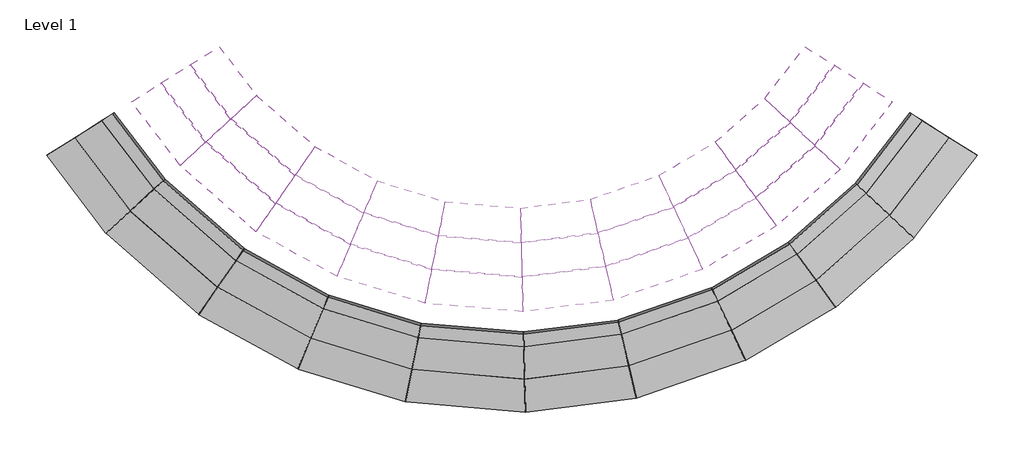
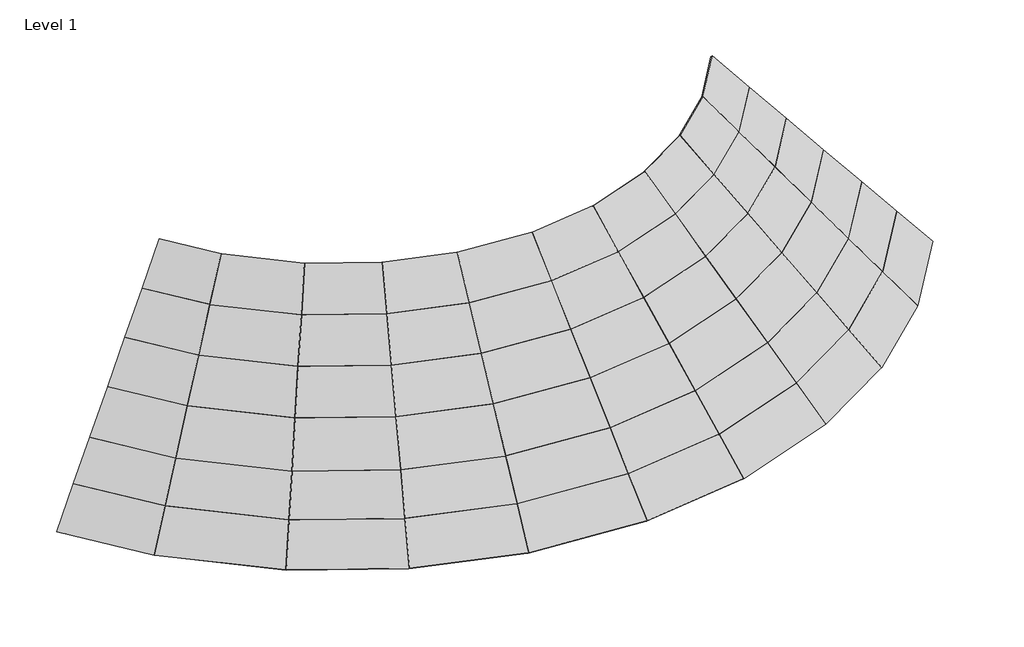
# One storey: 60 plates.
"""IFC4 building model written with IfcOpenShell, lengths in millimetres."""

from ifc_helpers import new_model, si_unit, origin, place, context, project, spatial, transform, mapped, element, save
from components import system_panel_glazed_6e2a4878, system_panel_glazed_3c71aec2, system_panel_glazed_4f0f1837, system_panel_glazed_e54a6020, system_panel_glazed_dfffa2bf, system_panel_glazed_6ec41bf2, system_panel_glazed_7a613e81, system_panel_glazed_fb5c626f, system_panel_glazed_0b7128df, system_panel_glazed_2b1205ff, system_panel_glazed_bf9ad2f0, system_panel_glazed_85c3ad32, system_panel_glazed_f3bbe18e, system_panel_glazed_807822bf, system_panel_glazed_51df4797, system_panel_glazed_4bbc0f11, system_panel_glazed_e08d9c6f, system_panel_glazed_d9e891e0, system_panel_glazed_01ebcfbc, system_panel_glazed_b30dfeb5, system_panel_glazed_c6224ab1, system_panel_glazed_5926891d, system_panel_glazed_dc56a07b, system_panel_glazed_5b0640af, system_panel_glazed_34d42b5f, system_panel_glazed_966eeb3d, system_panel_glazed_a2529070, system_panel_glazed_59c087d3, system_panel_glazed_0ad6e43e, system_panel_glazed_1d632c2c, system_panel_glazed_2f6e3617, system_panel_glazed_b698644e, system_panel_glazed_2e94e17d, system_panel_glazed_3fde837d, system_panel_glazed_3e9f0f07, system_panel_glazed_c5cbc8f5, system_panel_glazed_928b8942, system_panel_glazed_b72a6657, system_panel_glazed_78d38e67, system_panel_glazed_7d937b3a, system_panel_glazed_4a051760, system_panel_glazed_9d362672, system_panel_glazed_4bb69ba0, system_panel_glazed_829d08a9, system_panel_glazed_b9eb00bb, system_panel_glazed_2e27290a, system_panel_glazed_7a24bfd0, system_panel_glazed_4b19afda

model = new_model("IFC4")

# Units and contexts
model_context = context("Model", 3, world=origin())
ifc_project = project(units=[si_unit("LENGTHUNIT", "METRE", prefix="MILLI")], contexts=[model_context])

# Site, building, storey
site = spatial("IfcSite", under=ifc_project)
building = spatial("IfcBuilding", under=site)
storey = spatial("IfcBuildingStorey", under=building, Name="Level 1", Elevation=0.0)

# Plates
placement = place(None, origin())
system_panel_glazed_shape = system_panel_glazed_6e2a4878(model_context)
element("IfcPlate", 1, ObjectType="System Panel : Glazed", at=placement, inside=storey, context=model_context, shape_type="MappedRepresentation", body=[
    mapped(system_panel_glazed_shape, transform((-6833.4001878, -975.4926385, 497.7968484), x_axis=(0.6058835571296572, -0.795553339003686, 0.0), y_axis=(-0.563661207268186, -0.42927738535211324, 0.7056960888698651), z_axis=(-0.5614188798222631, -0.4275696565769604, -0.7085146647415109))),
])
system_panel_glazed_2_shape = system_panel_glazed_3c71aec2(model_context)
element("IfcPlate", 2, ObjectType="System Panel : Glazed", at=placement, inside=storey, context=model_context, shape_type="MappedRepresentation", body=[
    mapped(system_panel_glazed_2_shape, transform((-5762.8988394, -2094.4013435, 497.7968484), x_axis=(0.7529409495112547, -0.6580880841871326, 0.0), y_axis=(-0.4668094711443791, -0.53409258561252, 0.7048645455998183), z_axis=(-0.4638629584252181, -0.5307213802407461, -0.7093419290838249))),
])
system_panel_glazed_3_shape = system_panel_glazed_4f0f1837(model_context)
element("IfcPlate", 3, ObjectType="System Panel : Glazed", at=placement, inside=storey, context=model_context, shape_type="MappedRepresentation", body=[
    mapped(system_panel_glazed_3_shape, transform((-4413.5780029, -3048.1888963, 497.7971671), x_axis=(0.8761872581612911, -0.48197083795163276, 0.0), y_axis=(-0.34170840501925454, -0.6212005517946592, 0.7052270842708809), z_axis=(-0.3398988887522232, -0.617910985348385, -0.7089814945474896))),
])
system_panel_glazed_4_shape = system_panel_glazed_e54a6020(model_context)
element("IfcPlate", 4, ObjectType="System Panel : Glazed", at=placement, inside=storey, context=model_context, shape_type="MappedRepresentation", body=[
    mapped(system_panel_glazed_4_shape, transform((-2959.9949475, -3663.2313159, 497.7971671), x_axis=(0.9561248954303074, -0.2929593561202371, 0.0), y_axis=(-0.20769920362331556, -0.6778632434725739, 0.7052392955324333), z_axis=(-0.20660644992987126, -0.6742968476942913, -0.7089693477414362))),
])
system_panel_glazed_5_shape = system_panel_glazed_dfffa2bf(model_context)
element("IfcPlate", 5, ObjectType="System Panel : Glazed", at=placement, inside=storey, context=model_context, shape_type="MappedRepresentation", body=[
    mapped(system_panel_glazed_5_shape, transform((-1359.6020494, -3967.147594, 497.7971338), x_axis=(0.9963860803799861, -0.08493985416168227, 0.0), y_axis=(-0.06024218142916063, -0.7066702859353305, 0.7049737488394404), z_axis=(-0.05988036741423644, -0.7024260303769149, -0.7092333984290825))),
])
system_panel_glazed_6_shape = system_panel_glazed_6ec41bf2(model_context)
element("IfcPlate", 6, ObjectType="System Panel : Glazed", at=placement, inside=storey, context=model_context, shape_type="MappedRepresentation", body=[
    mapped(system_panel_glazed_6_shape, transform((261.7137196, -3940.2385872, 497.7971338), x_axis=(0.9920410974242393, 0.12591449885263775, 0.0), y_axis=(0.08926503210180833, -0.7032913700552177, 0.7052751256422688), z_axis=(0.08880436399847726, -0.6996619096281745, -0.7089337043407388))),
])
system_panel_glazed_7_shape = system_panel_glazed_7a613e81(model_context)
element("IfcPlate", 7, ObjectType="System Panel : Glazed", at=placement, inside=storey, context=model_context, shape_type="MappedRepresentation", body=[
    mapped(system_panel_glazed_7_shape, transform((1807.5219346, -3575.8633477, 497.7976981), x_axis=(0.9450234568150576, 0.32700254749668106, 0.0), y_axis=(0.23186627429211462, -0.6700836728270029, 0.7051424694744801), z_axis=(0.2305833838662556, -0.6663761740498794, -0.70906565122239))),
])
system_panel_glazed_8_shape = system_panel_glazed_fb5c626f(model_context)
element("IfcPlate", 8, ObjectType="System Panel : Glazed", at=placement, inside=storey, context=model_context, shape_type="MappedRepresentation", body=[
    mapped(system_panel_glazed_8_shape, transform((3207.4341932, -2936.7812915, 497.7976981), x_axis=(0.8610315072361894, 0.5085516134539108, 0.0), y_axis=(0.3604141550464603, -0.6102191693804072, 0.7055028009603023), z_axis=(0.358784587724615, -0.6074601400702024, -0.708707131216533))),
])
element("IfcPlate", 9, ObjectType="System Panel : Glazed", at=placement, inside=storey, context=model_context, shape_type="MappedRepresentation", body=[
    mapped(system_panel_glazed_8_shape, transform((4390.0958079, -2076.9627514, 497.7975143), x_axis=(0.7493209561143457, 0.662206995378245, 0.0), y_axis=(0.4693108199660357, -0.5310491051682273, 0.7055028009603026), z_axis=(0.4671888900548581, -0.5286480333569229, -0.7087071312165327))),
])
element("IfcPlate", 10, ObjectType="System Panel : Glazed", at=placement, inside=storey, context=model_context, shape_type="MappedRepresentation", body=[
    mapped(system_panel_glazed_8_shape, transform((5388.8143911, -1009.003113, 497.7970447), x_axis=(0.6105679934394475, 0.7919638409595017, 0.0), y_axis=(0.5612704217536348, -0.4327138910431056, 0.7055028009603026), z_axis=(0.558732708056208, -0.43075742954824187, -0.7087071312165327))),
])
system_panel_glazed_9_shape = system_panel_glazed_0b7128df(model_context)
element("IfcPlate", 11, ObjectType="System Panel : Glazed", at=placement, inside=storey, context=model_context, shape_type="MappedRepresentation", body=[
    mapped(system_panel_glazed_9_shape, transform((-6450.0028051, -683.5019371, 981.6471089), x_axis=(0.605883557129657, -0.7955533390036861, 0.0), y_axis=(-0.5636612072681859, -0.42927738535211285, 0.7056960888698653), z_axis=(-0.5614188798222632, -0.4275696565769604, -0.7085146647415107))),
])
system_panel_glazed_10_shape = system_panel_glazed_2b1205ff(model_context)
element("IfcPlate", 12, ObjectType="System Panel : Glazed", at=placement, inside=storey, context=model_context, shape_type="MappedRepresentation", body=[
    mapped(system_panel_glazed_10_shape, transform((-5446.4925922, -1732.3902122, 981.6471089), x_axis=(0.7529409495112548, -0.6580880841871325, 0.0), y_axis=(-0.4668094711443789, -0.5340925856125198, 0.7048645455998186), z_axis=(-0.4638629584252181, -0.5307213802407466, -0.7093419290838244))),
])
system_panel_glazed_11_shape = system_panel_glazed_bf9ad2f0(model_context)
element("IfcPlate", 13, ObjectType="System Panel : Glazed", at=placement, inside=storey, context=model_context, shape_type="MappedRepresentation", body=[
    mapped(system_panel_glazed_11_shape, transform((-4181.6112373, -2626.4904606, 981.6474077), x_axis=(0.8761872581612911, -0.48197083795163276, 0.0), y_axis=(-0.34170840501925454, -0.6212005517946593, 0.7052270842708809), z_axis=(-0.3398988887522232, -0.6179109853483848, -0.7089814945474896))),
])
system_panel_glazed_12_shape = system_panel_glazed_85c3ad32(model_context)
element("IfcPlate", 14, ObjectType="System Panel : Glazed", at=placement, inside=storey, context=model_context, shape_type="MappedRepresentation", body=[
    mapped(system_panel_glazed_12_shape, transform((-2818.9922403, -3203.0440203, 981.6474077), x_axis=(0.9561248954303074, -0.29295935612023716, 0.0), y_axis=(-0.20769920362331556, -0.6778632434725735, 0.7052392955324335), z_axis=(-0.20660644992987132, -0.6742968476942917, -0.7089693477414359))),
])
system_panel_glazed_13_shape = system_panel_glazed_f3bbe18e(model_context)
element("IfcPlate", 15, ObjectType="System Panel : Glazed", at=placement, inside=storey, context=model_context, shape_type="MappedRepresentation", body=[
    mapped(system_panel_glazed_13_shape, transform((-1318.7507402, -3487.9414433, 981.6473765), x_axis=(0.9963860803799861, -0.08493985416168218, 0.0), y_axis=(-0.060242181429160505, -0.7066702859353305, 0.7049737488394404), z_axis=(-0.05988036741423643, -0.7024260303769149, -0.7092333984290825))),
])
system_panel_glazed_14_shape = system_panel_glazed_807822bf(model_context)
element("IfcPlate", 16, ObjectType="System Panel : Glazed", at=placement, inside=storey, context=model_context, shape_type="MappedRepresentation", body=[
    mapped(system_panel_glazed_14_shape, transform((201.1043806, -3462.7163817, 981.6473765), x_axis=(0.9920410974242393, 0.1259144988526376, 0.0), y_axis=(0.08926503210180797, -0.7032913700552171, 0.7052751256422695), z_axis=(0.08880436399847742, -0.6996619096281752, -0.7089337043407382))),
])
system_panel_glazed_15_shape = system_panel_glazed_51df4797(model_context)
element("IfcPlate", 17, ObjectType="System Panel : Glazed", at=placement, inside=storey, context=model_context, shape_type="MappedRepresentation", body=[
    mapped(system_panel_glazed_15_shape, transform((1650.1770577, -3121.1434791, 981.6479054), x_axis=(0.9450234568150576, 0.327002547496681, 0.0), y_axis=(0.2318662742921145, -0.6700836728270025, 0.7051424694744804), z_axis=(0.23058338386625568, -0.6663761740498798, -0.7090656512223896))),
])
system_panel_glazed_16_shape = system_panel_glazed_4bbc0f11(model_context)
element("IfcPlate", 18, ObjectType="System Panel : Glazed", at=placement, inside=storey, context=model_context, shape_type="MappedRepresentation", body=[
    mapped(system_panel_glazed_16_shape, transform((2962.4839392, -2522.0546648, 981.6479054), x_axis=(0.8610315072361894, 0.5085516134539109, 0.0), y_axis=(0.3604141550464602, -0.610219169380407, 0.7055028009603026), z_axis=(0.3587845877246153, -0.6074601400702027, -0.7087071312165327))),
])
element("IfcPlate", 19, ObjectType="System Panel : Glazed", at=placement, inside=storey, context=model_context, shape_type="MappedRepresentation", body=[
    mapped(system_panel_glazed_16_shape, transform((4071.135514, -1716.0428934, 981.6477331), x_axis=(0.7493209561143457, 0.662206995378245, 0.0), y_axis=(0.4693108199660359, -0.5310491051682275, 0.7055028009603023), z_axis=(0.46718889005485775, -0.5286480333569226, -0.708707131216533))),
])
element("IfcPlate", 20, ObjectType="System Panel : Glazed", at=placement, inside=storey, context=model_context, shape_type="MappedRepresentation", body=[
    mapped(system_panel_glazed_16_shape, transform((5007.3550546, -714.9153442, 981.647293), x_axis=(0.6105679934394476, 0.7919638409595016, 0.0), y_axis=(0.5612704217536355, -0.43271389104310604, 0.7055028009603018), z_axis=(0.5587327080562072, -0.4307574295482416, -0.7087071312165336))),
])
system_panel_glazed_17_shape = system_panel_glazed_e08d9c6f(model_context)
element("IfcPlate", 21, ObjectType="System Panel : Glazed", at=placement, inside=storey, context=model_context, shape_type="MappedRepresentation", body=[
    mapped(system_panel_glazed_17_shape, transform((-6031.1475506, -364.5069701, 1510.2454527), x_axis=(0.6058835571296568, -0.7955533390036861, 0.0), y_axis=(-0.5636612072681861, -0.4292773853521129, 0.7056960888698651), z_axis=(-0.5614188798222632, -0.4275696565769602, -0.7085146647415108))),
])
system_panel_glazed_18_shape = system_panel_glazed_d9e891e0(model_context)
element("IfcPlate", 22, ObjectType="System Panel : Glazed", at=placement, inside=storey, context=model_context, shape_type="MappedRepresentation", body=[
    mapped(system_panel_glazed_18_shape, transform((-5100.8240427, -1336.8990726, 1510.2454623), x_axis=(0.7529409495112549, -0.6580880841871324, 0.0), y_axis=(-0.4668094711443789, -0.5340925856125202, 0.7048645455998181), z_axis=(-0.46386295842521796, -0.5307213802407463, -0.7093419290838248))),
])
system_panel_glazed_19_shape = system_panel_glazed_01ebcfbc(model_context)
element("IfcPlate", 23, ObjectType="System Panel : Glazed", at=placement, inside=storey, context=model_context, shape_type="MappedRepresentation", body=[
    mapped(system_panel_glazed_19_shape, transform((-3928.1913178, -2165.7918344, 1510.2458771), x_axis=(0.876187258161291, -0.48197083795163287, 0.0), y_axis=(-0.3417084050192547, -0.6212005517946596, 0.7052270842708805), z_axis=(-0.33989888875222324, -0.6179109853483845, -0.7089814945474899))),
])
system_panel_glazed_20_shape = system_panel_glazed_b30dfeb5(model_context)
element("IfcPlate", 24, ObjectType="System Panel : Glazed", at=placement, inside=storey, context=model_context, shape_type="MappedRepresentation", body=[
    mapped(system_panel_glazed_20_shape, transform((-2664.9491177, -2700.2969225, 1510.2458771), x_axis=(0.9561248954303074, -0.2929593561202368, 0.0), y_axis=(-0.20769920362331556, -0.6778632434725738, 0.7052392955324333), z_axis=(-0.2066064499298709, -0.6742968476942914, -0.708969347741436))),
])
system_panel_glazed_21_shape = system_panel_glazed_c6224ab1(model_context)
element("IfcPlate", 25, ObjectType="System Panel : Glazed", at=placement, inside=storey, context=model_context, shape_type="MappedRepresentation", body=[
    mapped(system_panel_glazed_21_shape, transform((-1274.1213252, -2964.4165701, 1510.2458467), x_axis=(0.9963860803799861, -0.08493985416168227, 0.0), y_axis=(-0.060242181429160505, -0.7066702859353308, 0.7049737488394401), z_axis=(-0.05988036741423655, -0.7024260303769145, -0.7092333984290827))),
])
system_panel_glazed_22_shape = system_panel_glazed_5926891d(model_context)
element("IfcPlate", 26, ObjectType="System Panel : Glazed", at=placement, inside=storey, context=model_context, shape_type="MappedRepresentation", body=[
    mapped(system_panel_glazed_22_shape, transform((134.8896537, -2941.0311906, 1510.2458467), x_axis=(0.9920410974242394, 0.1259144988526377, 0.0), y_axis=(0.08926503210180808, -0.7032913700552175, 0.705275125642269), z_axis=(0.08880436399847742, -0.6996619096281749, -0.7089337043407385))),
])
system_panel_glazed_23_shape = system_panel_glazed_dc56a07b(model_context)
element("IfcPlate", 27, ObjectType="System Panel : Glazed", at=placement, inside=storey, context=model_context, shape_type="MappedRepresentation", body=[
    mapped(system_panel_glazed_23_shape, transform((1478.2804032, -2624.369449, 1510.2463371), x_axis=(0.9450234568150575, 0.32700254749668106, 0.0), y_axis=(0.2318662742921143, -0.6700836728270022, 0.7051424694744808), z_axis=(0.23058338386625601, -0.66637617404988, -0.7090656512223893))),
])
system_panel_glazed_24_shape = system_panel_glazed_5b0640af(model_context)
element("IfcPlate", 28, ObjectType="System Panel : Glazed", at=placement, inside=storey, context=model_context, shape_type="MappedRepresentation", body=[
    mapped(system_panel_glazed_24_shape, transform((2694.8797874, -2068.9726186, 1510.2463371), x_axis=(0.8610315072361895, 0.5085516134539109, 0.0), y_axis=(0.3604141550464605, -0.6102191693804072, 0.7055028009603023), z_axis=(0.35878458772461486, -0.6074601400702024, -0.7087071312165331))),
])
element("IfcPlate", 29, ObjectType="System Panel : Glazed", at=placement, inside=storey, context=model_context, shape_type="MappedRepresentation", body=[
    mapped(system_panel_glazed_24_shape, transform((3722.6765945, -1321.7438734, 1510.2461774), x_axis=(0.7493209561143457, 0.662206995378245, 0.0), y_axis=(0.4693108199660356, -0.5310491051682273, 0.7055028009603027), z_axis=(0.46718889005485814, -0.5286480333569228, -0.7087071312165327))),
])
element("IfcPlate", 30, ObjectType="System Panel : Glazed", at=placement, inside=storey, context=model_context, shape_type="MappedRepresentation", body=[
    mapped(system_panel_glazed_24_shape, transform((4590.6169612, -393.6292864, 1510.2457693), x_axis=(0.6105679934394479, 0.7919638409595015, 0.0), y_axis=(0.5612704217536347, -0.4327138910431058, 0.7055028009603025), z_axis=(0.5587327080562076, -0.4307574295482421, -0.7087071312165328))),
])
system_panel_glazed_25_shape = system_panel_glazed_34d42b5f(model_context)
element("IfcPlate", 31, ObjectType="System Panel : Glazed", at=placement, inside=storey, context=model_context, shape_type="MappedRepresentation", body=[
    mapped(system_panel_glazed_25_shape, transform((-5624.9806403, -55.1753392, 2022.8309842), x_axis=(0.6058835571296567, -0.7955533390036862, 0.0), y_axis=(-0.5636612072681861, -0.4292773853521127, 0.7056960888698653), z_axis=(-0.5614188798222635, -0.4275696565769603, -0.7085146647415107))),
])
system_panel_glazed_26_shape = system_panel_glazed_966eeb3d(model_context)
element("IfcPlate", 32, ObjectType="System Panel : Glazed", at=placement, inside=storey, context=model_context, shape_type="MappedRepresentation", body=[
    mapped(system_panel_glazed_26_shape, transform((-4765.6234245, -953.384573, 2022.8362519), x_axis=(0.7529409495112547, -0.6580880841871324, 0.0), y_axis=(-0.46680947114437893, -0.53409258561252, 0.7048645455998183), z_axis=(-0.463862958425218, -0.5307213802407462, -0.7093419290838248))),
])
system_panel_glazed_27_shape = system_panel_glazed_a2529070(model_context)
element("IfcPlate", 33, ObjectType="System Panel : Glazed", at=placement, inside=storey, context=model_context, shape_type="MappedRepresentation", body=[
    mapped(system_panel_glazed_27_shape, transform((-3682.4459763, -1719.0450214, 2022.8362519), x_axis=(0.8761872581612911, -0.4819708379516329, 0.0), y_axis=(-0.3417084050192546, -0.6212005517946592, 0.705227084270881), z_axis=(-0.33989888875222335, -0.617910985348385, -0.7089814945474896))),
])
system_panel_glazed_28_shape = system_panel_glazed_59c087d3(model_context)
element("IfcPlate", 34, ObjectType="System Panel : Glazed", at=placement, inside=storey, context=model_context, shape_type="MappedRepresentation", body=[
    mapped(system_panel_glazed_28_shape, transform((-2515.5716567, -2212.7770397, 2022.8341447), x_axis=(0.9561248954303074, -0.29295935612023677, 0.0), y_axis=(-0.20769920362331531, -0.6778632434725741, 0.705239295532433), z_axis=(-0.2066064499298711, -0.6742968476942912, -0.7089693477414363))),
])
system_panel_glazed_29_shape = system_panel_glazed_0ad6e43e(model_context)
element("IfcPlate", 35, ObjectType="System Panel : Glazed", at=placement, inside=storey, context=model_context, shape_type="MappedRepresentation", body=[
    mapped(system_panel_glazed_29_shape, transform((-1230.8434955, -2456.7464571, 2022.8359047), x_axis=(0.9963860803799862, -0.08493985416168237, 0.0), y_axis=(-0.060242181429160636, -0.7066702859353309, 0.70497374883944), z_axis=(-0.05988036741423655, -0.7024260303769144, -0.709233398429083))),
])
system_panel_glazed_30_shape = system_panel_glazed_1d632c2c(model_context)
element("IfcPlate", 36, ObjectType="System Panel : Glazed", at=placement, inside=storey, context=model_context, shape_type="MappedRepresentation", body=[
    mapped(system_panel_glazed_30_shape, transform((70.6794784, -2435.1392371, 2022.8417903), x_axis=(0.9920410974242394, 0.1259144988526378, 0.0), y_axis=(0.08926503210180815, -0.7032913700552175, 0.705275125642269), z_axis=(0.08880436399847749, -0.6996619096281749, -0.7089337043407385))),
])
system_panel_glazed_31_shape = system_panel_glazed_2f6e3617(model_context)
element("IfcPlate", 37, ObjectType="System Panel : Glazed", at=placement, inside=storey, context=model_context, shape_type="MappedRepresentation", body=[
    mapped(system_panel_glazed_31_shape, transform((1311.58781, -2142.6349339, 2022.8417903), x_axis=(0.9450234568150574, 0.32700254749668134, 0.0), y_axis=(0.2318662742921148, -0.6700836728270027, 0.7051424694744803), z_axis=(0.23058338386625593, -0.6663761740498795, -0.7090656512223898))),
])
system_panel_glazed_32_shape = system_panel_glazed_b698644e(model_context)
element("IfcPlate", 38, ObjectType="System Panel : Glazed", at=placement, inside=storey, context=model_context, shape_type="MappedRepresentation", body=[
    mapped(system_panel_glazed_32_shape, transform((2435.3823416, -1629.6160805, 2022.8315939), x_axis=(0.8610315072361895, 0.5085516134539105, 0.0), y_axis=(0.36041415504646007, -0.6102191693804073, 0.7055028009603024), z_axis=(0.3587845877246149, -0.6074601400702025, -0.708707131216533))),
])
element("IfcPlate", 39, ObjectType="System Panel : Glazed", at=placement, inside=storey, context=model_context, shape_type="MappedRepresentation", body=[
    mapped(system_panel_glazed_32_shape, transform((3384.7740628, -939.3899442, 2022.8309973), x_axis=(0.7493209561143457, 0.662206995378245, 0.0), y_axis=(0.4693108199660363, -0.5310491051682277, 0.705502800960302), z_axis=(0.4671888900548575, -0.5286480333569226, -0.7087071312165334))),
])
element("IfcPlate", 40, ObjectType="System Panel : Glazed", at=placement, inside=storey, context=model_context, shape_type="MappedRepresentation", body=[
    mapped(system_panel_glazed_32_shape, transform((4186.5037588, -82.0764437, 2022.8305952), x_axis=(0.6105679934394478, 0.7919638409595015, 0.0), y_axis=(0.561270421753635, -0.43271389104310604, 0.7055028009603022), z_axis=(0.5587327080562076, -0.4307574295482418, -0.7087071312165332))),
])
system_panel_glazed_33_shape = system_panel_glazed_2e94e17d(model_context)
element("IfcPlate", 41, ObjectType="System Panel : Glazed", at=placement, inside=storey, context=model_context, shape_type="MappedRepresentation", body=[
    mapped(system_panel_glazed_33_shape, transform((-4812.6485281, 563.4868007, 3048.0), x_axis=(0.6058835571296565, -0.7955533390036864, 0.0), y_axis=(-0.5636612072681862, -0.4292773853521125, 0.7056960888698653), z_axis=(-0.5614188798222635, -0.42756965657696, -0.7085146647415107))),
])
system_panel_glazed_34_shape = system_panel_glazed_3fde837d(model_context)
element("IfcPlate", 42, ObjectType="System Panel : Glazed", at=placement, inside=storey, context=model_context, shape_type="MappedRepresentation", body=[
    mapped(system_panel_glazed_34_shape, transform((-4095.2339443, -186.3688312, 3048.0), x_axis=(0.752940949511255, -0.658088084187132, 0.0), y_axis=(-0.4668094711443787, -0.5340925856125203, 0.7048645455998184), z_axis=(-0.4638629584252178, -0.5307213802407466, -0.7093419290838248))),
])
system_panel_glazed_35_shape = system_panel_glazed_3e9f0f07(model_context)
element("IfcPlate", 43, ObjectType="System Panel : Glazed", at=placement, inside=storey, context=model_context, shape_type="MappedRepresentation", body=[
    mapped(system_panel_glazed_35_shape, transform((-3190.9633404, -825.56627, 3048.0), x_axis=(0.8761872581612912, -0.4819708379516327, 0.0), y_axis=(-0.3417084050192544, -0.6212005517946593, 0.7052270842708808), z_axis=(-0.3398988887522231, -0.6179109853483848, -0.7089814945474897))),
])
system_panel_glazed_36_shape = system_panel_glazed_c5cbc8f5(model_context)
element("IfcPlate", 44, ObjectType="System Panel : Glazed", at=placement, inside=storey, context=model_context, shape_type="MappedRepresentation", body=[
    mapped(system_panel_glazed_36_shape, transform((-2216.8196919, -1237.7474791, 3048.0), x_axis=(0.9561248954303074, -0.2929593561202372, 0.0), y_axis=(-0.20769920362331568, -0.6778632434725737, 0.7052392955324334), z_axis=(-0.20660644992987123, -0.6742968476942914, -0.7089693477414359))),
])
system_panel_glazed_37_shape = system_panel_glazed_928b8942(model_context)
element("IfcPlate", 45, ObjectType="System Panel : Glazed", at=placement, inside=storey, context=model_context, shape_type="MappedRepresentation", body=[
    mapped(system_panel_glazed_37_shape, transform((-1144.2894509, -1441.4220756, 3048.0), x_axis=(0.9963860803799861, -0.0849398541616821, 0.0), y_axis=(-0.06024218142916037, -0.7066702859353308, 0.7049737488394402), z_axis=(-0.05988036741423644, -0.7024260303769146, -0.7092333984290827))),
])
system_panel_glazed_38_shape = system_panel_glazed_b72a6657(model_context)
element("IfcPlate", 46, ObjectType="System Panel : Glazed", at=placement, inside=storey, context=model_context, shape_type="MappedRepresentation", body=[
    mapped(system_panel_glazed_38_shape, transform((-57.7369354, -1423.3886026, 3048.0), x_axis=(0.9920410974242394, 0.12591449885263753, 0.0), y_axis=(0.089265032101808, -0.7032913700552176, 0.7052751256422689), z_axis=(0.08880436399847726, -0.6996619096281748, -0.7089337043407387))),
])
system_panel_glazed_39_shape = system_panel_glazed_78d38e67(model_context)
element("IfcPlate", 47, ObjectType="System Panel : Glazed", at=placement, inside=storey, context=model_context, shape_type="MappedRepresentation", body=[
    mapped(system_panel_glazed_39_shape, transform((978.2137513, -1179.1964608, 3048.0), x_axis=(0.9450234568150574, 0.3270025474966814, 0.0), y_axis=(0.23186627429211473, -0.6700836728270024, 0.7051424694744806), z_axis=(0.23058338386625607, -0.6663761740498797, -0.7090656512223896))),
])
system_panel_glazed_40_shape = system_panel_glazed_7d937b3a(model_context)
element("IfcPlate", 48, ObjectType="System Panel : Glazed", at=placement, inside=storey, context=model_context, shape_type="MappedRepresentation", body=[
    mapped(system_panel_glazed_40_shape, transform((1916.3885337, -750.9048008, 3048.0), x_axis=(0.8610315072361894, 0.5085516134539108, 0.0), y_axis=(0.36041415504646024, -0.6102191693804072, 0.7055028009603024), z_axis=(0.3587845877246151, -0.6074601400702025, -0.708707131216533))),
])
element("IfcPlate", 49, ObjectType="System Panel : Glazed", at=placement, inside=storey, context=model_context, shape_type="MappedRepresentation", body=[
    mapped(system_panel_glazed_40_shape, transform((2708.9694203, -174.6825603, 3048.0), x_axis=(0.7493209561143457, 0.6622069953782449, 0.0), y_axis=(0.46931081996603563, -0.5310491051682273, 0.7055028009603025), z_axis=(0.46718889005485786, -0.5286480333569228, -0.7087071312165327))),
])
element("IfcPlate", 50, ObjectType="System Panel : Glazed", at=placement, inside=storey, context=model_context, shape_type="MappedRepresentation", body=[
    mapped(system_panel_glazed_40_shape, transform((3378.2775487, 541.0290916, 3048.0), x_axis=(0.610567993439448, 0.7919638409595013, 0.0), y_axis=(0.561270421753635, -0.4327138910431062, 0.7055028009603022), z_axis=(0.5587327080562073, -0.4307574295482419, -0.7087071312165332))),
])
system_panel_glazed_41_shape = system_panel_glazed_4a051760(model_context)
element("IfcPlate", 51, ObjectType="System Panel : Glazed", at=placement, inside=storey, context=model_context, shape_type="MappedRepresentation", body=[
    mapped(system_panel_glazed_41_shape, transform((-5218.8143786, 254.1559291, 2535.4157769), x_axis=(0.6058835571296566, -0.7955533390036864, 0.0), y_axis=(-0.5636612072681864, -0.4292773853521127, 0.7056960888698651), z_axis=(-0.5614188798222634, -0.42756965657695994, -0.7085146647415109))),
])
system_panel_glazed_42_shape = system_panel_glazed_9d362672(model_context)
element("IfcPlate", 52, ObjectType="System Panel : Glazed", at=placement, inside=storey, context=model_context, shape_type="MappedRepresentation", body=[
    mapped(system_panel_glazed_42_shape, transform((-4430.4271646, -569.8747527, 2535.4206096), x_axis=(0.7529409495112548, -0.6580880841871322, 0.0), y_axis=(-0.4668094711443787, -0.5340925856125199, 0.7048645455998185), z_axis=(-0.463862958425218, -0.5307213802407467, -0.7093419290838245))),
])
system_panel_glazed_43_shape = system_panel_glazed_4bb69ba0(model_context)
element("IfcPlate", 53, ObjectType="System Panel : Glazed", at=placement, inside=storey, context=model_context, shape_type="MappedRepresentation", body=[
    mapped(system_panel_glazed_43_shape, transform((-3436.7034069, -1272.3035144, 2535.4206096), x_axis=(0.8761872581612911, -0.48197083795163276, 0.0), y_axis=(-0.3417084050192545, -0.621200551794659, 0.7052270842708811), z_axis=(-0.33989888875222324, -0.6179109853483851, -0.7089814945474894))),
])
system_panel_glazed_44_shape = system_panel_glazed_829d08a9(model_context)
element("IfcPlate", 54, ObjectType="System Panel : Glazed", at=placement, inside=storey, context=model_context, shape_type="MappedRepresentation", body=[
    mapped(system_panel_glazed_44_shape, transform((-2366.1951154, -1725.2607618, 2535.4186764), x_axis=(0.9561248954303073, -0.29295935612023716, 0.0), y_axis=(-0.20769920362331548, -0.6778632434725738, 0.7052392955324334), z_axis=(-0.20660644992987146, -0.6742968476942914, -0.708969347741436))),
])
system_panel_glazed_45_shape = system_panel_glazed_b9eb00bb(model_context)
element("IfcPlate", 55, ObjectType="System Panel : Glazed", at=placement, inside=storey, context=model_context, shape_type="MappedRepresentation", body=[
    mapped(system_panel_glazed_45_shape, transform((-1187.5664303, -1949.0819369, 2535.4202911), x_axis=(0.9963860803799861, -0.08493985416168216, 0.0), y_axis=(-0.0602421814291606, -0.7066702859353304, 0.7049737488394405), z_axis=(-0.05988036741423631, -0.702426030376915, -0.7092333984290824))),
])
system_panel_glazed_46_shape = system_panel_glazed_2e27290a(model_context)
element("IfcPlate", 56, ObjectType="System Panel : Glazed", at=placement, inside=storey, context=model_context, shape_type="MappedRepresentation", body=[
    mapped(system_panel_glazed_46_shape, transform((6.4705044, -1929.2592082, 2535.4256906), x_axis=(0.9920410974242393, 0.12591449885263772, 0.0), y_axis=(0.08926503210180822, -0.7032913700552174, 0.7052751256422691), z_axis=(0.08880436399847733, -0.6996619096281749, -0.7089337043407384))),
])
system_panel_glazed_47_shape = system_panel_glazed_7a24bfd0(model_context)
element("IfcPlate", 57, ObjectType="System Panel : Glazed", at=placement, inside=storey, context=model_context, shape_type="MappedRepresentation", body=[
    mapped(system_panel_glazed_47_shape, transform((1144.8995133, -1660.9110895, 2535.4256906), x_axis=(0.9450234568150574, 0.32700254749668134, 0.0), y_axis=(0.23186627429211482, -0.6700836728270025, 0.7051424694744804), z_axis=(0.23058338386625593, -0.6663761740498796, -0.7090656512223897))),
])
system_panel_glazed_48_shape = system_panel_glazed_4b19afda(model_context)
element("IfcPlate", 58, ObjectType="System Panel : Glazed", at=placement, inside=storey, context=model_context, shape_type="MappedRepresentation", body=[
    mapped(system_panel_glazed_48_shape, transform((2175.8851745, -1190.2599725, 2535.4163363), x_axis=(0.8610315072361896, 0.5085516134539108, 0.0), y_axis=(0.3604141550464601, -0.6102191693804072, 0.7055028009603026), z_axis=(0.35878458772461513, -0.6074601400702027, -0.7087071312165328))),
])
element("IfcPlate", 59, ObjectType="System Panel : Glazed", at=placement, inside=storey, context=model_context, shape_type="MappedRepresentation", body=[
    mapped(system_panel_glazed_48_shape, transform((3046.8715507, -557.0360353, 2535.4157889), x_axis=(0.7493209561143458, 0.6622069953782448, 0.0), y_axis=(0.4693108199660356, -0.5310491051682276, 0.7055028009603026), z_axis=(0.4671888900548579, -0.5286480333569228, -0.7087071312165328))),
])
element("IfcPlate", 60, ObjectType="System Panel : Glazed", at=placement, inside=storey, context=model_context, shape_type="MappedRepresentation", body=[
    mapped(system_panel_glazed_48_shape, transform((3782.3905572, 229.4763984, 2535.4154201), x_axis=(0.6105679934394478, 0.7919638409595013, 0.0), y_axis=(0.5612704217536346, -0.43271389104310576, 0.7055028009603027), z_axis=(0.5587327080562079, -0.4307574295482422, -0.7087071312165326))),
])

save(model, "model.ifc")
